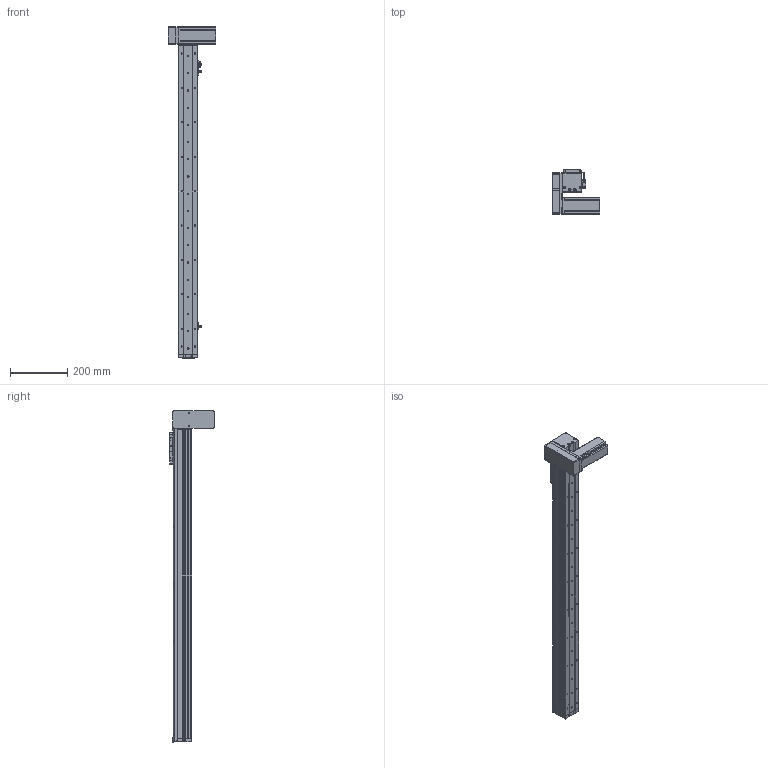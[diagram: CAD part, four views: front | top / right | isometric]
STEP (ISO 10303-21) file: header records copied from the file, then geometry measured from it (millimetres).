
FILE_DESCRIPTION (( 'STEP AP214' ), '1' );
FILE_NAME ('KSD68BS-S900-MRD-CR.STEP', '2019-08-28T02:29:41', ( '微软用户' ), ( '微软中国' ), 'SwSTEP 2.0', 'SolidWorks 2014', '' );
FILE_SCHEMA (( 'AUTOMOTIVE_DESIGN' ));
Length unit declared in the file: millimetre
Products named in the file (14): 68宽单导轨全封闭同步带端板; 68单导轨全封闭同步带电机座右; 68单导轨全封闭同步带安装板; 悵誘欶奻狟殏; 68宽马达安装板连板上折同步带; 感应片68宽全封闭; U倰嫖萇EEㄜSX672; 台达ECMA－C20604AS伺服电机（400W); KSD68BS 900行程底板全封闭; KSD68BS 900行程盖板全封闭; 68遵裔啣揤啣1; KSD68BS-S900-MRD-CR; 68宽单导轨全封闭丝杆传动安装板1防护罩; KSD68BS 900行程侧板全封闭
Assembly tree (17 placements, depth 2):
  KSD68BS-S900-MRD-CR
    KSD68BS 900行程底板全封闭
    台达ECMA－C20604AS伺服电机（400W)
    U倰嫖萇EEㄜSX672  x3
    感应片68宽全封闭
    68宽马达安装板连板上折同步带
    悵誘欶奻狟殏
    68单导轨全封闭同步带安装板
    68单导轨全封闭同步带电机座右
    68宽单导轨全封闭同步带端板
    KSD68BS 900行程侧板全封闭  x2
    68宽单导轨全封闭丝杆传动安装板1防护罩
    68遵裔啣揤啣1  x2
    KSD68BS 900行程盖板全封闭
Bounding box: 167.2 x 155.5 x 1158.1 mm (x, y, z)
Volume: 2402715.8 mm3; surface area: 908315.4 mm2
Topology: 18 solids, 18 shells, 1486 faces, 4231 edges, 2707 vertices
Faces by surface type: cylinder 699, plane 627, cone 160
Entity records: 47166 total; most frequent: CARTESIAN_POINT 8043, DIRECTION 7085, ORIENTED_EDGE 6782, EDGE_CURVE 3391, AXIS2_PLACEMENT_3D 2551, VERTEX_POINT 2225, VECTOR 1983, LINE 1983
